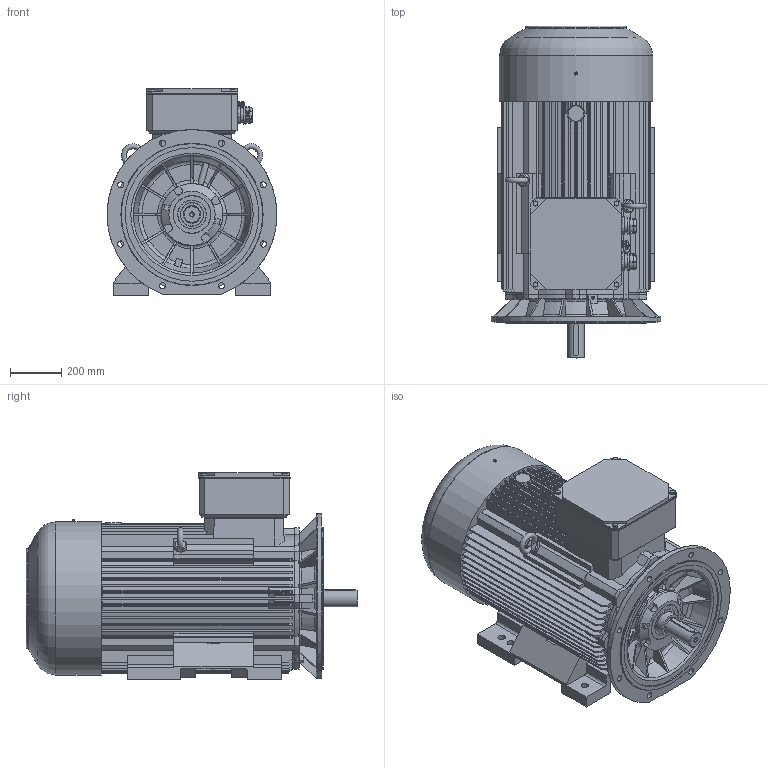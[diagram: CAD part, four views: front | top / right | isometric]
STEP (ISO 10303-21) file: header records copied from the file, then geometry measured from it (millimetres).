
FILE_DESCRIPTION(/* description */ ('Unknown','CAx-IF Rec.Pracs.---Representation and Presentation of Product Manufacturing Information (PMI)---4.0---2014-10-13','CAx-IF Rec.Pracs.---3D Tessellated Geometry---0.4---2014-09-14','2;1'),/* implementation_level */ '2;1');
FILE_NAME(/* name */ '4SIEL315(M2A, M2B)',/* time_stamp */ '2023-03-22T13:17:15+01:00',/* author */ ('Unknown'),/* organization */ ('Unknown'),/* preprocessor_version */ 'ST-DEVELOPER v16.7',/* originating_system */ 'DEX',/* authorisation */ $);
FILE_SCHEMA (('AP242_MANAGED_MODEL_BASED_3D_ENGINEERING_MIM_LF { 1 0 10303 442 20130219 1 4 }'));
Products named in the file (1): 4SIEL315(M2A, M2B)
Bounding box: 660 x 1290 x 804.5 mm (x, y, z)
Volume: 289183850.4 mm3; surface area: 7441708.6 mm2
Topology: 6 solids, 21 shells, 1933 faces, 5514 edges, 3620 vertices
Faces by surface type: plane 1006, cylinder 574, torus 158, cone 123, sphere 56, bspline 16
Full cylindrical faces by diameter (mm): 1.6 x2, 5 x4, 6.595 x1, 8.698 x1, 9 x1, 9.306 x1, 10.106 x4, 11 x1, 13 x1, 13.835 x1, 16.63 x4, 17 x1, 17.294 x1, 18 x1, 19.525 x1, 20 x2, 21.546 x2, 24 x12, 27 x1, 28 x6, 38.657 x2, 41.028 x1, 42.657 x2, 44 x2, 47 x2, 50 x2, 54 x2, 64.999 x1, 75 x2, 89.5 x1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
Entity records: 78555 total; most frequent: CARTESIAN_POINT 17714, ORIENTED_EDGE 10290, DIRECTION 9864, EDGE_CURVE 5145, AXIS2_PLACEMENT_3D 3600, VERTEX_POINT 3448, LINE 2664, VECTOR 2664
